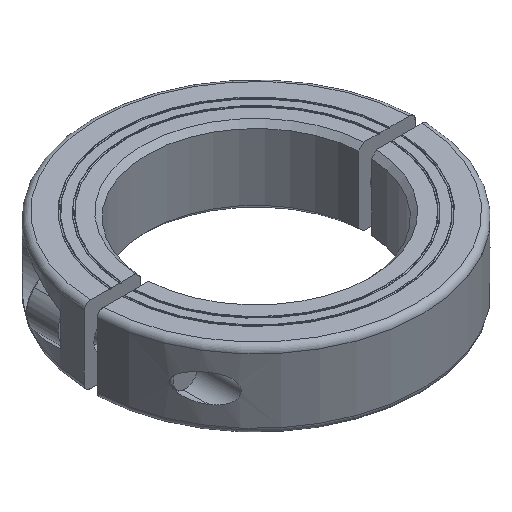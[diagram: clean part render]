
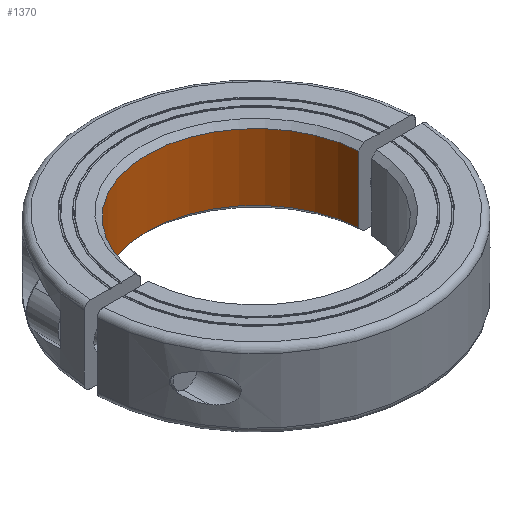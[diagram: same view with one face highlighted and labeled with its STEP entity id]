
A CAD part, isometric view. The second image highlights one B-rep face of the part: STEP entity #1370.
In plain terms, the highlighted cylindrical face has radius 27 mm (diameter 54 mm), a partial arc.
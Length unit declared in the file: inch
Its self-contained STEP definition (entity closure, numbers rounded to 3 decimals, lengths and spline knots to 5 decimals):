
#164=DIRECTION('',(0.,0.,-1.));
#165=VECTOR('',#164,0.648);
#166=CARTESIAN_POINT('',(1.06115,0.0625,0.69802));
#167=LINE('',#166,#165);
#253=CARTESIAN_POINT('',(0.,0.,0.69803));
#254=DIRECTION('',(0.,0.,-1.));
#255=DIRECTION('',(-0.998,0.059,0.));
#256=AXIS2_PLACEMENT_3D('',#253,#254,#255);
#258=CARTESIAN_POINT('',(0.,0.,0.05));
#259=DIRECTION('',(0.,0.,1.));
#260=DIRECTION('',(0.998,0.059,0.));
#261=AXIS2_PLACEMENT_3D('',#258,#259,#260);
#328=DIRECTION('',(0.,0.,1.));
#329=VECTOR('',#328,0.648);
#330=CARTESIAN_POINT('',(-1.06115,0.0625,
0.05001));
#331=LINE('',#330,#329);
#332=CARTESIAN_POINT('',(-1.06115,0.0625,
0.05001));
#878=CARTESIAN_POINT('',(1.06115,0.0625,0.69802));
#879=CARTESIAN_POINT('',(1.06115,0.0625,0.05001));
#880=VERTEX_POINT('',#878);
#881=VERTEX_POINT('',#879);
#911=CARTESIAN_POINT('',(-1.06115,0.0625,
0.69803));
#912=VERTEX_POINT('',#911);
#913=VERTEX_POINT('',#332);
#1357=CARTESIAN_POINT('',(0.,0.,0.69803));
#1358=DIRECTION('',(0.,0.,-1.));
#1359=DIRECTION('',(-1.,0.,0.));
#1360=AXIS2_PLACEMENT_3D('',#1357,#1358,#1359);
#1361=CYLINDRICAL_SURFACE('',#1360,1.06299);
#1363=ORIENTED_EDGE('',*,*,#1362,.T.);
#1365=ORIENTED_EDGE('',*,*,#1364,.T.);
#1366=ORIENTED_EDGE('',*,*,#1341,.T.);
#1367=ORIENTED_EDGE('',*,*,#1156,.T.);
#1368=EDGE_LOOP('',(#1363,#1365,#1366,#1367));
#1369=FACE_OUTER_BOUND('',#1368,.F.);
#257=CIRCLE('',#256,1.06299);
#262=CIRCLE('',#261,1.06299);
#1156=EDGE_CURVE('',#880,#881,#167,.T.);
#1341=EDGE_CURVE('',#912,#880,#257,.T.);
#1362=EDGE_CURVE('',#881,#913,#262,.T.);
#1364=EDGE_CURVE('',#913,#912,#331,.T.);
#1370=ADVANCED_FACE('',(#1369),#1361,.F.);
